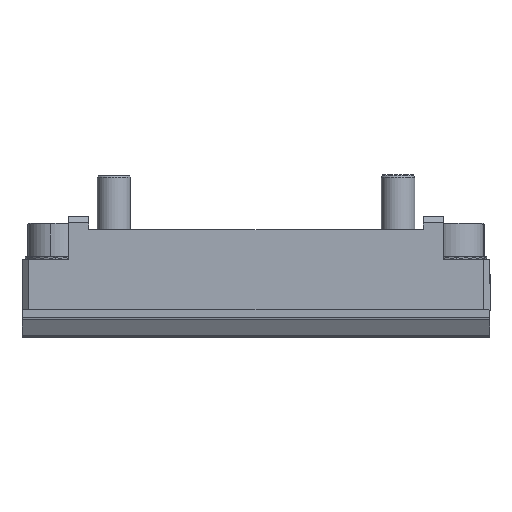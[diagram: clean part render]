
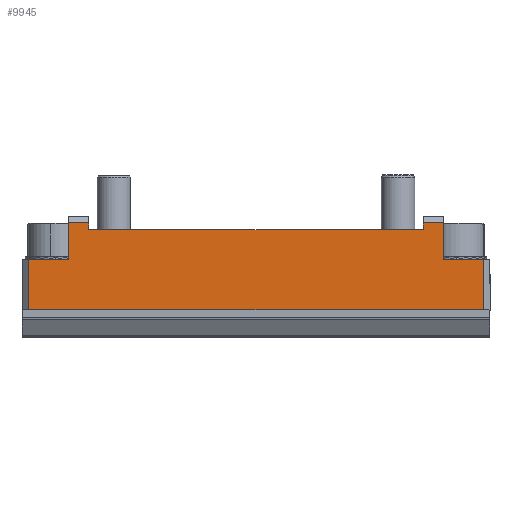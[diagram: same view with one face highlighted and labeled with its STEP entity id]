
A CAD part, top view. The second image highlights one B-rep face of the part: STEP entity #9945.
In plain terms, the highlighted planar face has unit normal (0, 0, 1).
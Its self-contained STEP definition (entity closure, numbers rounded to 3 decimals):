
#3 = LINE ( 'NONE', #7876, #1187 ) ;
#158 = EDGE_CURVE ( 'NONE', #3944, #8595, #3, .T. ) ;
#423 = CARTESIAN_POINT ( 'NONE',  ( -128.584, 12.986, 59.637 ) ) ;
#464 = VERTEX_POINT ( 'NONE', #9054 ) ;
#609 = DIRECTION ( 'NONE',  ( -1., 0., 0. ) ) ;
#619 = VERTEX_POINT ( 'NONE', #916 ) ;
#676 = LINE ( 'NONE', #4559, #2915 ) ;
#793 = EDGE_CURVE ( 'NONE', #8713, #464, #3429, .T. ) ;
#916 = CARTESIAN_POINT ( 'NONE',  ( -121.584, 12.986, 59.637 ) ) ;
#1105 = VERTEX_POINT ( 'NONE', #3020 ) ;
#1179 = CARTESIAN_POINT ( 'NONE',  ( -118.584, 11.986, 59.637 ) ) ;
#1185 = DIRECTION ( 'NONE',  ( 1., 0., 0. ) ) ;
#1187 = VECTOR ( 'NONE', #7846, 1000. ) ;
#1265 = VECTOR ( 'NONE', #609, 1000. ) ;
#1266 = ORIENTED_EDGE ( 'NONE', *, *, #793, .F. ) ;
#1348 = CARTESIAN_POINT ( 'NONE',  ( -68.584, 11.986, 59.637 ) ) ;
#1362 = VECTOR ( 'NONE', #6496, 1000. ) ;
#1365 = ORIENTED_EDGE ( 'NONE', *, *, #7914, .T. ) ;
#1435 = EDGE_CURVE ( 'NONE', #7640, #6152, #1829, .T. ) ;
#1603 = VERTEX_POINT ( 'NONE', #2519 ) ;
#1664 = AXIS2_PLACEMENT_3D ( 'NONE', #5498, #4666, #1185 ) ;
#1723 = CARTESIAN_POINT ( 'NONE',  ( -65.584, 12.986, 59.637 ) ) ;
#1829 = LINE ( 'NONE', #9956, #3027 ) ;
#1909 = VERTEX_POINT ( 'NONE', #1723 ) ;
#2519 = CARTESIAN_POINT ( 'NONE',  ( -59.584, -0.014, 59.637 ) ) ;
#2915 = VECTOR ( 'NONE', #10338, 1000. ) ;
#2926 = PLANE ( 'NONE',  #1664 ) ;
#2960 = LINE ( 'NONE', #4372, #4025 ) ;
#2980 = DIRECTION ( 'NONE',  ( 0., -1., 0. ) ) ;
#3020 = CARTESIAN_POINT ( 'NONE',  ( -127.584, 7.486, 59.637 ) ) ;
#3027 = VECTOR ( 'NONE', #8283, 1000. ) ;
#3059 = CARTESIAN_POINT ( 'NONE',  ( -118.584, 11.986, 59.637 ) ) ;
#3148 = EDGE_CURVE ( 'NONE', #1909, #464, #3785, .T. ) ;
#3376 = ORIENTED_EDGE ( 'NONE', *, *, #5448, .F. ) ;
#3429 = LINE ( 'NONE', #1348, #9996 ) ;
#3495 = DIRECTION ( 'NONE',  ( -1., 0., 0. ) ) ;
#3576 = FACE_OUTER_BOUND ( 'NONE', #6367, .T. ) ;
#3785 = LINE ( 'NONE', #8133, #1265 ) ;
#3916 = DIRECTION ( 'NONE',  ( 0., 1., 0. ) ) ;
#3944 = VERTEX_POINT ( 'NONE', #4570 ) ;
#4014 = ORIENTED_EDGE ( 'NONE', *, *, #4898, .T. ) ;
#4025 = VECTOR ( 'NONE', #3495, 1000. ) ;
#4218 = EDGE_CURVE ( 'NONE', #7324, #1105, #2960, .T. ) ;
#4372 = CARTESIAN_POINT ( 'NONE',  ( -121.584, 7.486, 59.637 ) ) ;
#4516 = LINE ( 'NONE', #7448, #1362 ) ;
#4559 = CARTESIAN_POINT ( 'NONE',  ( -65.584, 7.486, 59.637 ) ) ;
#4570 = CARTESIAN_POINT ( 'NONE',  ( -118.584, 12.986, 59.637 ) ) ;
#4581 = CARTESIAN_POINT ( 'NONE',  ( -127.584, -0.014, 59.637 ) ) ;
#4598 = ORIENTED_EDGE ( 'NONE', *, *, #9090, .T. ) ;
#4666 = DIRECTION ( 'NONE',  ( 0., 0., 1. ) ) ;
#4790 = ORIENTED_EDGE ( 'NONE', *, *, #1435, .T. ) ;
#4861 = ORIENTED_EDGE ( 'NONE', *, *, #9067, .T. ) ;
#4898 = EDGE_CURVE ( 'NONE', #10409, #1603, #10280, .T. ) ;
#5182 = LINE ( 'NONE', #1179, #7758 ) ;
#5334 = ORIENTED_EDGE ( 'NONE', *, *, #9088, .T. ) ;
#5448 = EDGE_CURVE ( 'NONE', #8595, #8713, #5182, .T. ) ;
#5498 = CARTESIAN_POINT ( 'NONE',  ( -128.584, -0.014, 59.637 ) ) ;
#5536 = DIRECTION ( 'NONE',  ( 1., 0., 0. ) ) ;
#5688 = CARTESIAN_POINT ( 'NONE',  ( -121.584, 7.486, 59.637 ) ) ;
#5707 = CARTESIAN_POINT ( 'NONE',  ( -127.584, -0.014, 59.637 ) ) ;
#6152 = VERTEX_POINT ( 'NONE', #6625 ) ;
#6367 = EDGE_LOOP ( 'NONE', ( #7444, #1365, #4014, #10181, #4790, #5334, #9916, #1266, #3376, #6796, #4861, #4598 ) ) ;
#6468 = VECTOR ( 'NONE', #8833, 1000. ) ;
#6496 = DIRECTION ( 'NONE',  ( 0., 1., 0. ) ) ;
#6625 = CARTESIAN_POINT ( 'NONE',  ( -65.584, 7.486, 59.637 ) ) ;
#6729 = VECTOR ( 'NONE', #5536, 1000. ) ;
#6796 = ORIENTED_EDGE ( 'NONE', *, *, #158, .F. ) ;
#7324 = VERTEX_POINT ( 'NONE', #5688 ) ;
#7405 = VECTOR ( 'NONE', #9845, 1000. ) ;
#7444 = ORIENTED_EDGE ( 'NONE', *, *, #4218, .T. ) ;
#7448 = CARTESIAN_POINT ( 'NONE',  ( -59.584, -0.014, 59.637 ) ) ;
#7640 = VERTEX_POINT ( 'NONE', #7872 ) ;
#7758 = VECTOR ( 'NONE', #8634, 1000. ) ;
#7824 = EDGE_CURVE ( 'NONE', #1603, #7640, #4516, .T. ) ;
#7846 = DIRECTION ( 'NONE',  ( 0., -1., 0. ) ) ;
#7872 = CARTESIAN_POINT ( 'NONE',  ( -59.584, 7.486, 59.637 ) ) ;
#7876 = CARTESIAN_POINT ( 'NONE',  ( -118.584, 13.986, 59.637 ) ) ;
#7891 = VECTOR ( 'NONE', #2980, 1000. ) ;
#7914 = EDGE_CURVE ( 'NONE', #1105, #10409, #9237, .T. ) ;
#8021 = CARTESIAN_POINT ( 'NONE',  ( -128.584, -0.014, 59.637 ) ) ;
#8133 = CARTESIAN_POINT ( 'NONE',  ( -128.584, 12.986, 59.637 ) ) ;
#8230 = CARTESIAN_POINT ( 'NONE',  ( -68.584, 11.986, 59.637 ) ) ;
#8283 = DIRECTION ( 'NONE',  ( -1., 0., 0. ) ) ;
#8595 = VERTEX_POINT ( 'NONE', #3059 ) ;
#8634 = DIRECTION ( 'NONE',  ( 1., 0., 0. ) ) ;
#8713 = VERTEX_POINT ( 'NONE', #8230 ) ;
#8833 = DIRECTION ( 'NONE',  ( -1., 0., 0. ) ) ;
#9054 = CARTESIAN_POINT ( 'NONE',  ( -68.584, 12.986, 59.637 ) ) ;
#9067 = EDGE_CURVE ( 'NONE', #3944, #619, #9605, .T. ) ;
#9088 = EDGE_CURVE ( 'NONE', #6152, #1909, #676, .T. ) ;
#9090 = EDGE_CURVE ( 'NONE', #619, #7324, #10661, .T. ) ;
#9237 = LINE ( 'NONE', #5707, #7405 ) ;
#9605 = LINE ( 'NONE', #423, #6468 ) ;
#9845 = DIRECTION ( 'NONE',  ( 0., -1., 0. ) ) ;
#9916 = ORIENTED_EDGE ( 'NONE', *, *, #3148, .T. ) ;
#9945 = ADVANCED_FACE ( 'NONE', ( #3576 ), #2926, .T. ) ;
#9956 = CARTESIAN_POINT ( 'NONE',  ( -58.584, 7.486, 59.637 ) ) ;
#9996 = VECTOR ( 'NONE', #3916, 1000. ) ;
#10181 = ORIENTED_EDGE ( 'NONE', *, *, #7824, .T. ) ;
#10280 = LINE ( 'NONE', #8021, #6729 ) ;
#10338 = DIRECTION ( 'NONE',  ( 0., 1., 0. ) ) ;
#10409 = VERTEX_POINT ( 'NONE', #4581 ) ;
#10448 = CARTESIAN_POINT ( 'NONE',  ( -121.584, 13.986, 59.637 ) ) ;
#10661 = LINE ( 'NONE', #10448, #7891 ) ;
